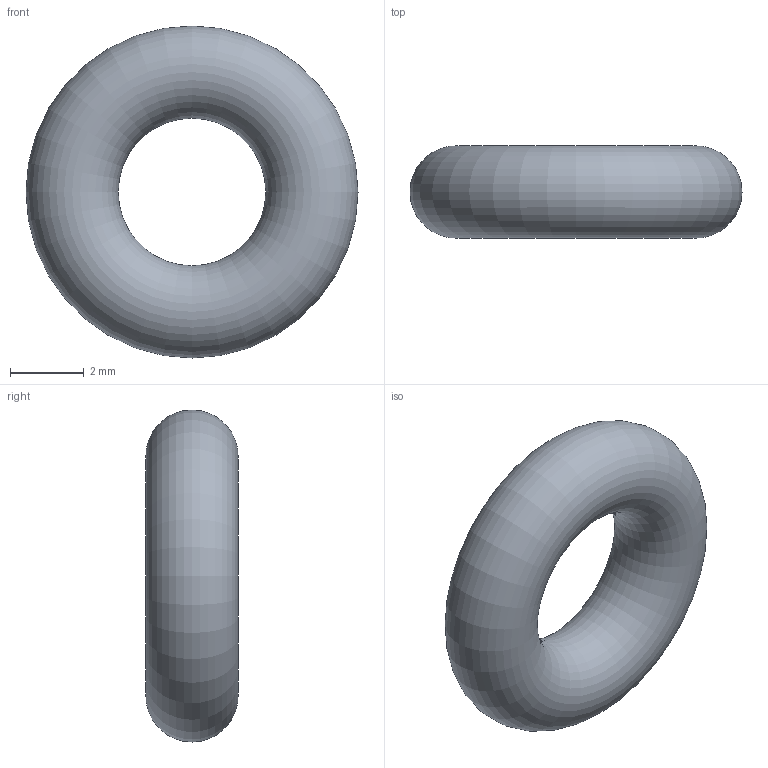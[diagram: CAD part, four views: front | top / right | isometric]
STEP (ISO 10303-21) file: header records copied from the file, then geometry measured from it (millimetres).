
FILE_DESCRIPTION( ( 'STEP AP203' ), '1' );
FILE_NAME( 'C:/Temp/Ganter_Step_05_03_2020/data/3_5/or638/O-Ring OR638-4.00-2.50-70.stp', '2020-03-12T13:44:26', ( 'License CC BY-ND 4.0' ), ( 'CADENAS' ), ' ', 'PARTsolutions', ' ' );
FILE_SCHEMA( ( 'CONFIG_CONTROL_DESIGN' ) );
Length unit declared in the file: millimetre
Products named in the file (1): _O-Ring OR638-4.00-2.50-70
Bounding box: 9 x 2.5 x 9 mm (x, y, z)
Volume: 100.2 mm3; surface area: 160.4 mm2
Topology: 1 solids, 1 shells, 1 faces, 2 edges, 1 vertices
Faces by surface type: torus 1
Entity records: 62 total; most frequent: CC_DESIGN_PERSON_AND_ORGANIZATION_ASSIGNMENT 5, PERSON_AND_ORGANIZATION_ROLE 4, DIRECTION 4, CARTESIAN_POINT 3, DATE_TIME_ROLE 2, CC_DESIGN_DATE_AND_TIME_ASSIGNMENT 2, AXIS2_PLACEMENT_3D 2, DIMENSIONAL_EXPONENTS 2
